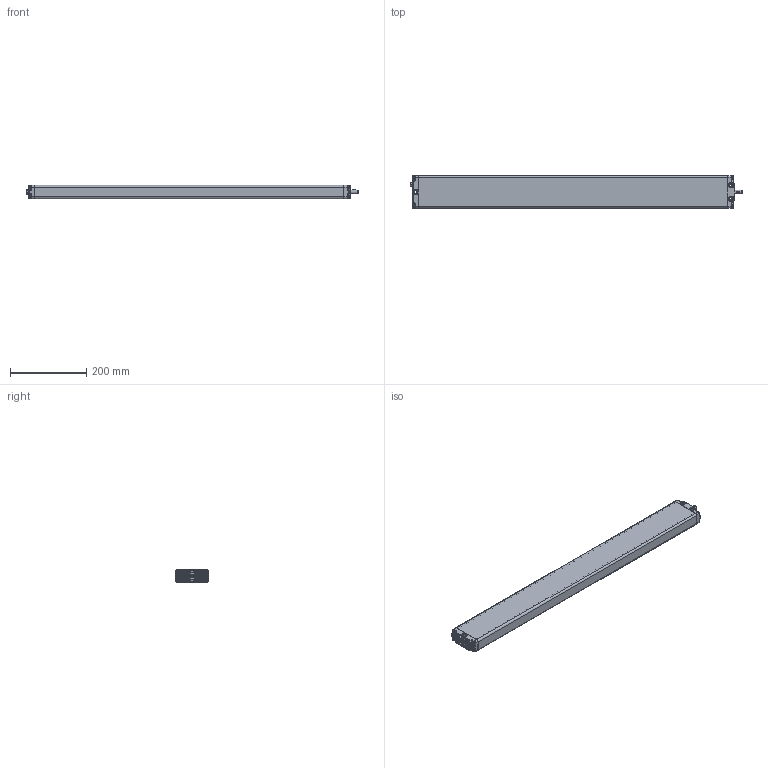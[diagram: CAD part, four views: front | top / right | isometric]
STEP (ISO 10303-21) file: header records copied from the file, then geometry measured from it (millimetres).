
FILE_DESCRIPTION(/* description */ ('Unknown'),/* implementation_level */ '2;1');
FILE_NAME(/* name */ '100.20026 Pumpe PA 1860 W',/* time_stamp */ '2016-08-09T16:45:23+02:00',/* author */ ('Unknown'),/* organization */ ('Unknown'),/* preprocessor_version */ 'ST-DEVELOPER v16.7',/* originating_system */ 'DEX',/* authorisation */ $);
FILE_SCHEMA (('AUTOMOTIVE_DESIGN {1 0 10303 214 3 1 1}'));
Products named in the file (13): 100.20026; 115.00036; 125.00045; 115.00008; 142.00021; 125.00021; 142.00013; 125.00146; 122.00040; 126.00002; 119.00026; 126.00001; 142.00057
Assembly tree (20 placements, depth 3):
  100.20026
    115.00036
      125.00045
      115.00008
      142.00021
      125.00021
    142.00013  x8
    125.00146
    122.00040
    126.00002
    119.00026
    126.00001
    142.00057
    125.00045
Bounding box: 871.47 x 85 x 35 mm (x, y, z)
Volume: 775949.2 mm3; surface area: 455610.3 mm2
Topology: 18 solids, 18 shells, 1880 faces, 4335 edges, 2452 vertices
Faces by surface type: plane 545, bspline 477, cylinder 433, cone 277, torus 103, sphere 45
Full cylindrical faces by diameter (mm): 3.5 x2, 4.1 x1, 4.2 x2, 5 x8, 6.917 x4, 8 x3, 9.8 x8, 10 x3, 10.4 x1, 14 x1, 14.4 x2, 17.3 x2, 17.9 x4, 18 x1, 19 x1
Entity records: 64745 total; most frequent: CARTESIAN_POINT 37610, ORIENTED_EDGE 5746, DIRECTION 4625, EDGE_CURVE 2873, AXIS2_PLACEMENT_3D 1895, VERTEX_POINT 1746, FACE_BOUND 1459, EDGE_LOOP 1458
